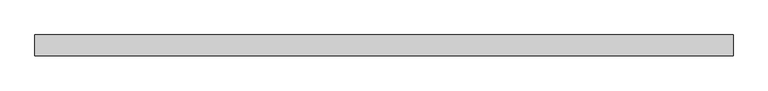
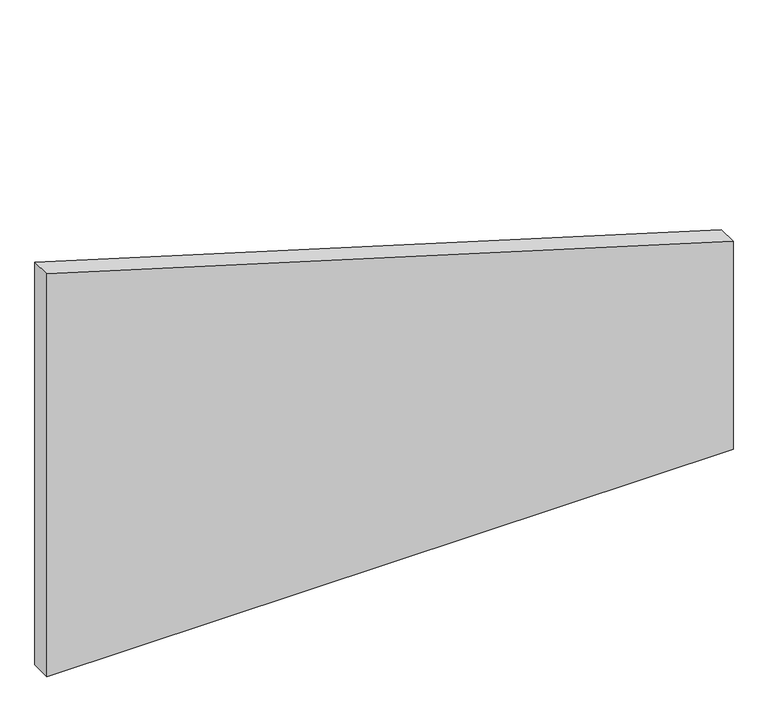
"""IFC4 building model written with IfcOpenShell, lengths in millimetres: plate geometry, Panneau système : Vitre 4cm."""

from ifc_helpers import new_model, si_unit, frame, origin, place, context, project, spatial, polyline, outline, extrude, source, transform, mapped, element, save


def plate_8ea76bf9(model_context):
    return source(origin(), model_context, "Body", "SweptSolid", [
        extrude(outline(polyline([(0.0, -669.4166667), (0.0, 669.4166667), (428.8656251, 669.4166667), (830.5156251, -669.4166667), (0.0, -669.4166667)])), frame((0.0, -20.0, 0.0), z_axis=(0.0, 1.0, 0.0), x_axis=(0.0, 0.0, 1.0)), (0.0, 0.0, 1.0), 40.0),
    ])


if __name__ == "__main__":
    model = new_model("IFC4")
    model_context = context("Model", 3, world=origin())
    ifc_project = project(units=[si_unit("LENGTHUNIT", "METRE", prefix="MILLI")], contexts=[model_context])
    site = spatial("IfcSite", under=ifc_project)
    building = spatial("IfcBuilding", under=site)
    placement = place(None, origin())
    plate_shape = plate_8ea76bf9(model_context)
    element("IfcPlate", 1, ObjectType="Panneau système : Vitre 4cm", at=placement, inside=building, context=model_context, shape_type="MappedRepresentation", body=[
        mapped(plate_shape, transform((0.0, 0.0, 0.0), x_axis=(1.0, 0.0, 0.0), y_axis=(0.0, 1.0, 0.0), z_axis=(0.0, 0.0, 1.0))),
    ])
    save(model, "model.ifc")
